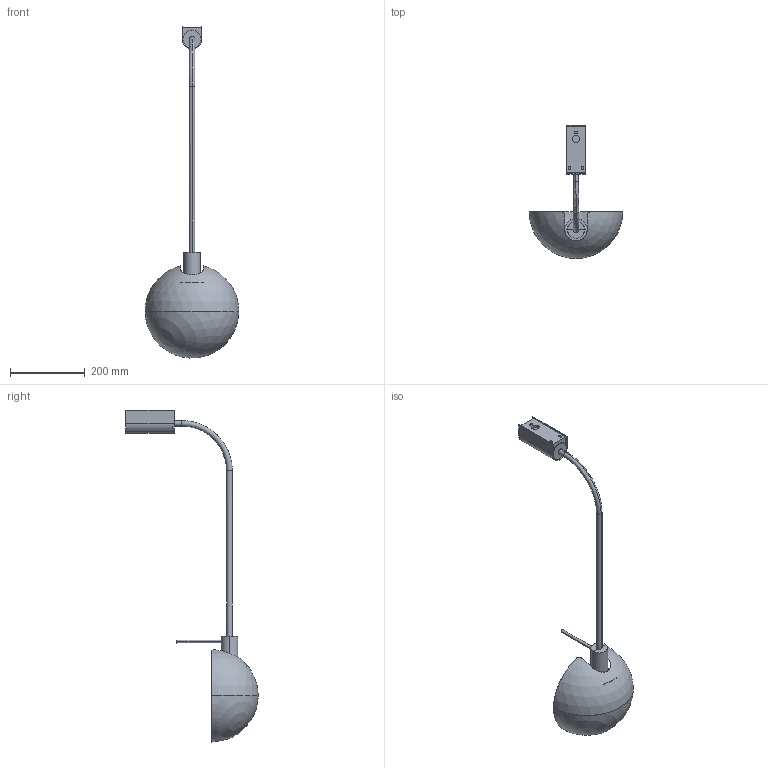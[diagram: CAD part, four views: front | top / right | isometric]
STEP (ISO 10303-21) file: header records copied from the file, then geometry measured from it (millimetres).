
FILE_DESCRIPTION(/* description */ (''),/* implementation_level */ '2;1');
FILE_NAME(/* name */ '20040-122.step',/* time_stamp */ '2024-06-11T15:51:52+02:00',/* author */ ('RenataManzini'),/* organization */ (''),/* preprocessor_version */ 'ST-DEVELOPER v20',/* originating_system */ 'AutoCAD Mechanical',/* authorisation */ '');
FILE_SCHEMA (('AUTOMOTIVE_DESIGN { 1 0 10303 214 3 1 1 }'));
Length unit declared in the file: millimetre
Products named in the file (2): Product; dominica_aplique_xl - DOMINICA-470224-_3D_
Assembly tree (1 placements, depth 2):
  Product
    dominica_aplique_xl - DOMINICA-470224-_3D_
Bounding box: 249.8 x 353.98 x 885.88 mm (x, y, z)
Volume: 695005.9 mm3; surface area: 287876 mm2
Topology: 6 solids, 6 shells, 95 faces, 213 edges, 137 vertices
Faces by surface type: plane 50, cylinder 39, sphere 4, torus 2
Entity records: 3216 total; most frequent: CARTESIAN_POINT 1016, DIRECTION 476, ORIENTED_EDGE 416, EDGE_CURVE 208, AXIS2_PLACEMENT_3D 181, VERTEX_POINT 132, LINE 114, VECTOR 114
